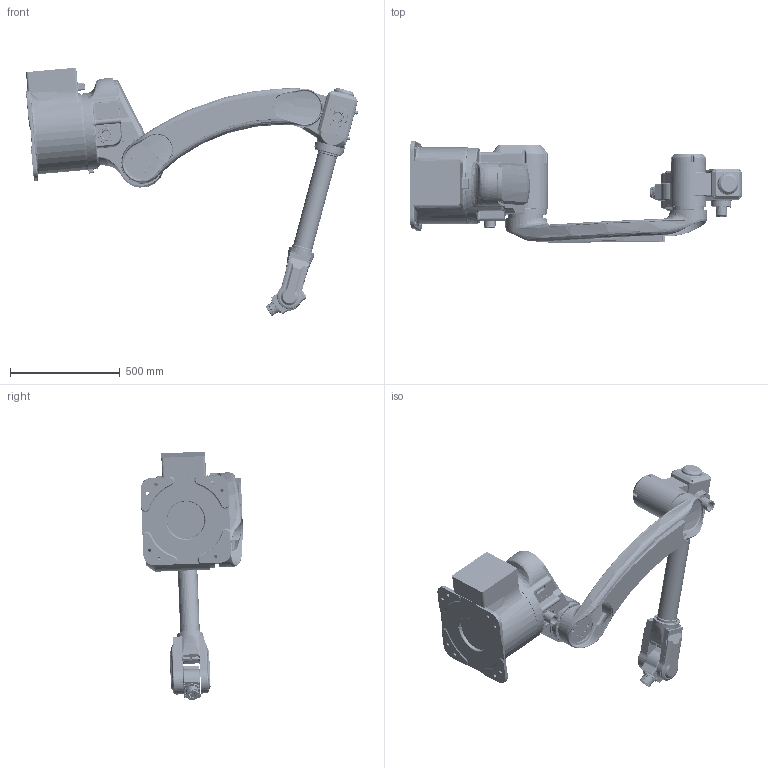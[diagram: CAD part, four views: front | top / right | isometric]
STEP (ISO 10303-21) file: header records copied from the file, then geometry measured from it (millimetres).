
FILE_DESCRIPTION((''),'2;1');
FILE_NAME('LP1950-B-6_1__ASM','2020-07-14T11:53:12',('Jasonyang'),(''),'CREO PARAMETRIC BY PTC INC, 2019224','CREO PARAMETRIC BY PTC INC, 2019224','');
FILE_SCHEMA(('AUTOMOTIVE_DESIGN { 1 0 10303 214 1 1 1 1 }'));
Products named in the file (70): _201500_20_4_18_A_0001; _20150020_4_20_A000001; RV40E_STP_1_1_1_RV40E_AF0_ASM_S; RV40E_AF0_ASM_STP_ASM_1_ASM_1_A_ASM; 0001_STP_1_1_1_190002_ASM_1_ASM; _256290_1_1_1_JHRV-40E_STP_ASM_; NONE-261159_1_1_1_JHRV-40E_STP_; _238360_1_1_1_JHRV-40E_STP_ASM_; NONE-147158_1_1_1_JHRV-40E_STP_; _2647320_1_1_1_JHRV-40E_STP_ASM; _1376970_1_1_1_JHRV-40E_STP_ASM; JHRV-40E_STP_ASM_1_ASM_1_ASM_1__ASM; LT1500-50001_STP_1_1_1_190002_A; 15001-240E0001_STP_1_1_1_190002; _2575770_1_1_1_6812ZZ_STP_ASM_1; _244360_1_1_1_6812ZZ_STP_ASM_1_; _2623470_1_1_1_6812ZZ_STP_ASM_1; _297890_1_1_1_6812ZZ_STP_ASM_1_; 6812ZZ_STP_ASM_1_ASM_1_ASM_1_AS_ASM; 190002_ASM_1_ASM_10001_ASM; _190001_ASM_1_ASM_0001_ASM; 64_LP1850_2__LP1850001_ASM; LT1500-4-20001_1_10001; LT950-4-1-250001_10001; 0007_1_1_1___AF20_0001; LT1500-600_1_1_1__0001; 0006_1_1_1_0005_ASM_1_ASM_1_ASM; M4X10_1_1_1_0005_ASM_1_ASM_1_AS; LT1500-1-70001_1_1_1_0005_ASM_1; LT1500-1-3000_1_1_1_0005_ASM_1_; 0005_ASM_1_ASM_1_A0001_ASM; JHRV20E_1_1_1_1_JHRV20E_1_ASM_1; JHRV20E_1_2_1_1_JHRV20E_1_ASM_1; JHRV20E_1_ASM_1_AS0001_ASM; LT1500-300_1_1_1__0001; __AF20_ASM_1_ASM_10001_ASM; LT1500-4-10001_1_10001; _0009_ASM_1_ASM_1_0001_ASM; AB-600_1_1_1__AB000001; AB-50001_1_1_1_0010_ASM_1_ASM_1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
Assembly tree (72 placements, depth 7):
  LP1950-B-6_1__ASM
    LP1950-B-6_ASM
      64_LP1850_2__LP1850001_ASM
        _201500_20_4_18_A_0001
        _20150020_4_20_A000001
        _190001_ASM_1_ASM_0001_ASM
          190002_ASM_1_ASM_10001_ASM
            RV40E_AF0_ASM_STP_ASM_1_ASM_1_A_ASM
              RV40E_STP_1_1_1_RV40E_AF0_ASM_S
            0001_STP_1_1_1_190002_ASM_1_ASM
            JHRV-40E_STP_ASM_1_ASM_1_ASM_1__ASM
              _256290_1_1_1_JHRV-40E_STP_ASM_
              NONE-261159_1_1_1_JHRV-40E_STP_
              _238360_1_1_1_JHRV-40E_STP_ASM_
              NONE-147158_1_1_1_JHRV-40E_STP_
              _2647320_1_1_1_JHRV-40E_STP_ASM
              _1376970_1_1_1_JHRV-40E_STP_ASM
            LT1500-50001_STP_1_1_1_190002_A
            15001-240E0001_STP_1_1_1_190002
            6812ZZ_STP_ASM_1_ASM_1_ASM_1_AS_ASM
              _2575770_1_1_1_6812ZZ_STP_ASM_1
              _244360_1_1_1_6812ZZ_STP_ASM_1_
              _2623470_1_1_1_6812ZZ_STP_ASM_1
              _297890_1_1_1_6812ZZ_STP_ASM_1_
      __AF20_ASM_1_ASM_10001_ASM
        LT1500-4-20001_1_10001
        LT950-4-1-250001_10001
        0007_1_1_1___AF20_0001
        LT1500-600_1_1_1__0001
        0005_ASM_1_ASM_1_A0001_ASM
          0006_1_1_1_0005_ASM_1_ASM_1_ASM
          M4X10_1_1_1_0005_ASM_1_ASM_1_AS  x4
          LT1500-1-70001_1_1_1_0005_ASM_1
          LT1500-1-3000_1_1_1_0005_ASM_1_
        JHRV20E_1_ASM_1_AS0001_ASM
          JHRV20E_1_1_1_1_JHRV20E_1_ASM_1
          JHRV20E_1_2_1_1_JHRV20E_1_ASM_1
        LT1500-300_1_1_1__0001
      _0009_ASM_1_ASM_1_0001_ASM
        LT1500-4-10001_1_10001
      _65_LP1850_2__LP180001_ASM
        _AB000_ASM_1_ASM_10001_ASM
          AB-600_1_1_1__AB000001
          0010_ASM_1_ASM_1_A0001_ASM
            AB-50001_1_1_1_0010_ASM_1_ASM_1
            AB-3-60001_1_1_1_0010_ASM_1_ASM
            LSS-14-U-I_ASM_1_ASM_1_ASM_1_AS_ASM
              MANIFOLD_SOLID_BREP_192_1_1_1_1
              MANIFOLD_SOLID_BREP_199_1_1_1_1
              MANIFOLD_SOLID_BREP_198_1_1_1_1
              MANIFOLD_SOLID_BREP_190_1_1_1_1
              MANIFOLD_SOLID_BREP_197_1_1_1_1
              MANIFOLD_SOLID_BREP_191_1_1_1_1
              MANIFOLD_SOLID_BREP_196_1_1_1_1
              MANIFOLD_SOLID_BREP_194_1_1_1_1
            AB-2-60001_1_1_1_0010_ASM_1_ASM
          AB-7-1_1_1_1__AB000001
          AB-6_1_1_1__AB000_0001
        _LOGOXIAO_1_ASM_1_0001_ASM
          LOGOXIAO_1_2_1_1__0001
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Bounding box: 1513.85 x 467.96 x 1133.45 mm (x, y, z)
Volume: 47390865.8 mm3; surface area: 6988827.3 mm2
Topology: 50 solids, 196 shells, 8743 faces, 25994 edges, 17390 vertices
Faces by surface type: cylinder 4148, plane 2048, bspline 652, cone 650, extrusion 575, torus 355, sphere 304, revolution 11
Entity records: 368327 total; most frequent: CARTESIAN_POINT 135119, ORIENTED_EDGE 48582, DIRECTION 47398, EDGE_CURVE 25505, AXIS2_PLACEMENT_3D 19028, VERTEX_POINT 17285, CIRCLE 11391, EDGE_LOOP 9799
